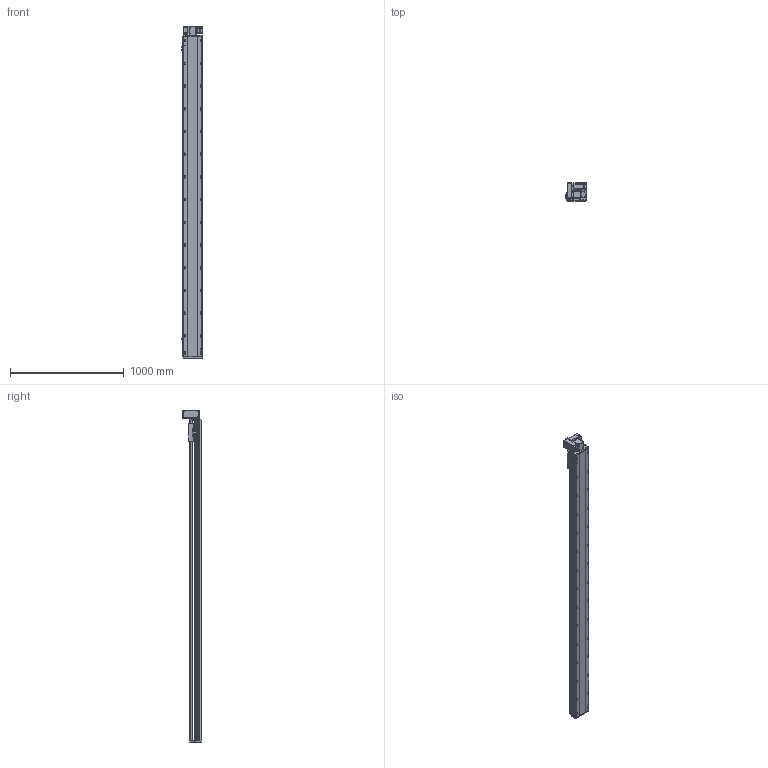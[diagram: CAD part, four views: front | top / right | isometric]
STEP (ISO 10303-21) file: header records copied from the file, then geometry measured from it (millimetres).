
FILE_DESCRIPTION (( 'STEP AP214' ), '1' );
FILE_NAME ('RTB17S-XX-2550-LW-M40-C4.STEP', '2025-12-11T07:17:43', ( '' ), ( '' ), 'SwSTEP 2.0', 'SolidWorks 2018', '' );
FILE_SCHEMA (( 'AUTOMOTIVE_DESIGN' ));
Length unit declared in the file: millimetre
Products named in the file (14): RTB17-R-011菁釱^RTB17S-XX-XX-LW-M40-C4; RTB17S-L-014-T20--々湍釱^RTB17S-LW-々湍釱蚾饜-400W_RTB17S-XX-XX-LW-M40-C4; RTB17S-XX-2550-LW-M40-C4; RTB17S-L-004佪裝蹟譫蟀諉釱^RTB17S-XX-XX-LW-M40-C4; RTH13-BL-012覜茼え俋离^RTB17S-XX-XX-LW-M40-C4; RTB17S-L-001耜醱啣^RTB17S-XX-XX-LW-M40-C4; RTB14-L-017P^RTB17S-LW-々湍釱蚾饜-400W_RTB17S-XX-XX-LW-M40-C4; OMRON EE-SX672 传感器^RTB17S-XX-XX-LW-M40-C4; RTB14-L-008-M20--萇儂啣^RTB17S-LW-々湍釱蚾饜-400W_RTB17S-XX-XX-LW-M40-C4; RTB17S-LW-々湍釱蚾饜-400W^RTB17S-XX-XX-LW-M40-C4; RTB17S-L-007奻裔^RTB17S-XX-XX-LW-M40-C4; RTB14-L-005P--轴承塑胶压盖^RTB17S-LW-皮带座装配-400W_RTB17S-XX-XX-LW-M40-C4; RTB14-L-018P^RTB17S-LW-々湍釱蚾饜-400W_RTB17S-XX-XX-LW-M40-C4; 400W侜督萇儂^RTB17S-XX-XX-LW-M40-C4
Assembly tree (16 placements, depth 3):
  RTB17S-XX-2550-LW-M40-C4
    RTB17-R-011菁釱^RTB17S-XX-XX-LW-M40-C4
    RTB17S-L-007奻裔^RTB17S-XX-XX-LW-M40-C4
    OMRON EE-SX672 传感器^RTB17S-XX-XX-LW-M40-C4  x3
    RTB17S-L-001耜醱啣^RTB17S-XX-XX-LW-M40-C4
    400W侜督萇儂^RTB17S-XX-XX-LW-M40-C4
    RTB17S-L-004佪裝蹟譫蟀諉釱^RTB17S-XX-XX-LW-M40-C4
    RTH13-BL-012覜茼え俋离^RTB17S-XX-XX-LW-M40-C4
    RTB17S-LW-々湍釱蚾饜-400W^RTB17S-XX-XX-LW-M40-C4
      RTB17S-L-014-T20--々湍釱^RTB17S-LW-々湍釱蚾饜-400W_RTB17S-XX-XX-LW-M40-C4
      RTB14-L-005P--轴承塑胶压盖^RTB17S-LW-皮带座装配-400W_RTB17S-XX-XX-LW-M40-C4
      RTB14-L-008-M20--萇儂啣^RTB17S-LW-々湍釱蚾饜-400W_RTB17S-XX-XX-LW-M40-C4
      RTB14-L-017P^RTB17S-LW-々湍釱蚾饜-400W_RTB17S-XX-XX-LW-M40-C4  x2
      RTB14-L-018P^RTB17S-LW-々湍釱蚾饜-400W_RTB17S-XX-XX-LW-M40-C4
Bounding box: 186 x 160.5 x 2922.5 mm (x, y, z)
Volume: 25014468 mm3; surface area: 2876466.5 mm2
Topology: 15 solids, 15 shells, 2333 faces, 6519 edges, 4257 vertices
Faces by surface type: plane 1084, cylinder 801, bspline 301, cone 139, torus 8
Entity records: 68777 total; most frequent: CARTESIAN_POINT 19524, ORIENTED_EDGE 9882, DIRECTION 9116, EDGE_CURVE 4941, VERTEX_POINT 3245, AXIS2_PLACEMENT_3D 3175, VECTOR 2766, LINE 2766
